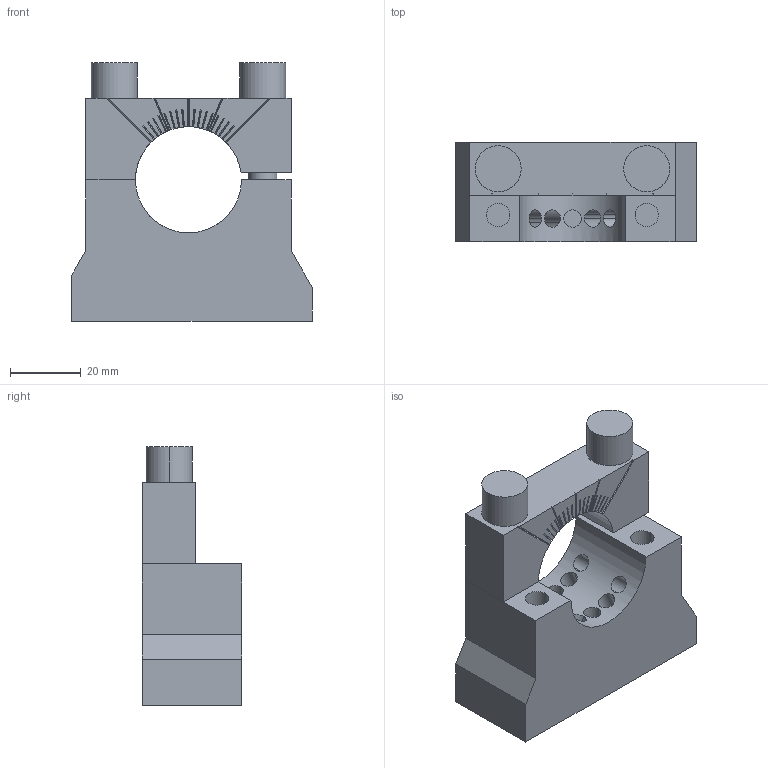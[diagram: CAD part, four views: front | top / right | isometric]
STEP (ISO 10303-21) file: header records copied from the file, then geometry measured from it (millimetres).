
FILE_DESCRIPTION(('STEP AP214'),'1');
FILE_NAME('EGT217_1706242_RD30_FL28.CATPart.stp','2015-09-14T13:13:42',('3D-Tool'),(' '),'Spatial InterOp 3D',' ',' ');
FILE_SCHEMA(('automotive_design'));
Length unit declared in the file: millimetre
Products named in the file (4): EGT217_1706242_RD30_FL28|EGT217_RD30_FL28|Bohrbearbeitung; EGT217_1706242_RD30_FL28|EGT205_SCHELLE_RD30_1|Assemble.51; 1; 2
Bounding box: 68 x 28 x 73.1 mm (x, y, z)
Volume: 70785.3 mm3; surface area: 23665.4 mm2
Topology: 4 solids, 4 shells, 195 faces, 501 edges, 334 vertices
Faces by surface type: plane 105, cylinder 90
Entity records: 8261 total; most frequent: CARTESIAN_POINT 1840, ORIENTED_EDGE 1002, DIRECTION 978, EDGE_CURVE 501, AXIS2_PLACEMENT_3D 360, VERTEX_POINT 334, LINE 258, VECTOR 258
